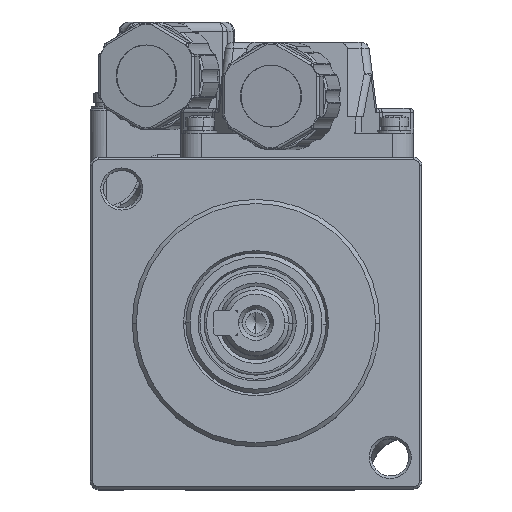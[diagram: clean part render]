
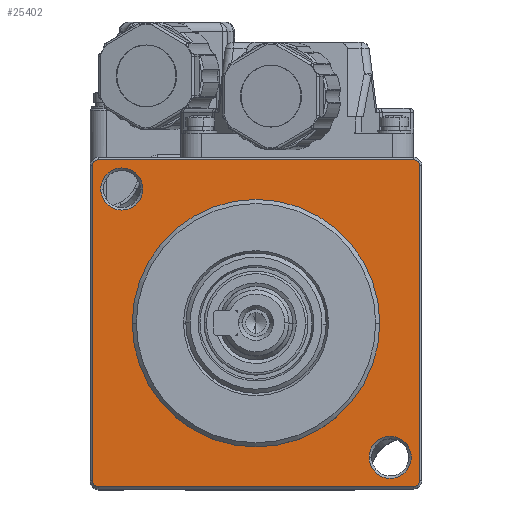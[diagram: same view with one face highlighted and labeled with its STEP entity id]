
A CAD part, top view. The second image highlights one B-rep face of the part: STEP entity #25402.
In plain terms, the highlighted planar face has unit normal (0, 0, 1).
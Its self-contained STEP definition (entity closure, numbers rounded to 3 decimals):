
#499 = CARTESIAN_POINT ( 'NONE',  ( 0., 0., 1.8 ) ) ;
#1031 = DIRECTION ( 'NONE',  ( 1., 0., 0. ) ) ;
#1082 = DIRECTION ( 'NONE',  ( 1., 0., 0. ) ) ;
#1184 = ORIENTED_EDGE ( 'NONE', *, *, #37519, .F. ) ;
#2623 = CIRCLE ( 'NONE', #49403, 0.7 ) ;
#3885 = AXIS2_PLACEMENT_3D ( 'NONE', #4384, #45711, #49116 ) ;
#4365 = VERTEX_POINT ( 'NONE', #35792 ) ;
#4384 = CARTESIAN_POINT ( 'NONE',  ( 16.263, -16.263, 1.8 ) ) ;
#4639 = CARTESIAN_POINT ( 'NONE',  ( -18.813, 16.263, 1.8 ) ) ;
#4656 = CARTESIAN_POINT ( 'NONE',  ( 0., 15., 1.8 ) ) ;
#4702 = CIRCLE ( 'NONE', #27278, 2.55 ) ;
#5017 = VERTEX_POINT ( 'NONE', #18409 ) ;
#5183 = CARTESIAN_POINT ( 'NONE',  ( 19.8, 19.1, 1.8 ) ) ;
#5382 = VERTEX_POINT ( 'NONE', #41039 ) ;
#6269 = VECTOR ( 'NONE', #10310, 1000. ) ;
#7117 = ORIENTED_EDGE ( 'NONE', *, *, #7809, .F. ) ;
#7581 = ORIENTED_EDGE ( 'NONE', *, *, #36174, .F. ) ;
#7809 = EDGE_CURVE ( 'NONE', #4365, #48178, #13114, .T. ) ;
#8301 = CARTESIAN_POINT ( 'NONE',  ( -16.263, 16.263, 1.8 ) ) ;
#8580 = FACE_BOUND ( 'NONE', #34111, .T. ) ;
#8612 = CARTESIAN_POINT ( 'NONE',  ( -16.263, 16.263, 1.8 ) ) ;
#8659 = EDGE_CURVE ( 'NONE', #49053, #22919, #4702, .T. ) ;
#8672 = CARTESIAN_POINT ( 'NONE',  ( 0., -19.8, 1.8 ) ) ;
#8674 = EDGE_CURVE ( 'NONE', #17698, #20687, #42342, .T. ) ;
#9002 = CARTESIAN_POINT ( 'NONE',  ( -19.1, -19.8, 1.8 ) ) ;
#9191 = DIRECTION ( 'NONE',  ( 0., 0., 1. ) ) ;
#10310 = DIRECTION ( 'NONE',  ( 0., 1., 0. ) ) ;
#11290 = VECTOR ( 'NONE', #12339, 1000. ) ;
#11974 = EDGE_CURVE ( 'NONE', #22919, #49053, #32444, .T. ) ;
#12134 = EDGE_LOOP ( 'NONE', ( #12232, #30790 ) ) ;
#12232 = ORIENTED_EDGE ( 'NONE', *, *, #11974, .F. ) ;
#12339 = DIRECTION ( 'NONE',  ( -1., 0., 0. ) ) ;
#12409 = CIRCLE ( 'NONE', #19926, 0.7 ) ;
#12813 = EDGE_CURVE ( 'NONE', #20687, #17698, #14121, .T. ) ;
#12861 = ORIENTED_EDGE ( 'NONE', *, *, #48913, .F. ) ;
#13039 = ORIENTED_EDGE ( 'NONE', *, *, #27749, .F. ) ;
#13114 = LINE ( 'NONE', #8672, #11290 ) ;
#13588 = CARTESIAN_POINT ( 'NONE',  ( 0., 19.8, 1.8 ) ) ;
#13842 = AXIS2_PLACEMENT_3D ( 'NONE', #21232, #9191, #1082 ) ;
#14121 = CIRCLE ( 'NONE', #20807, 2.55 ) ;
#14319 = CARTESIAN_POINT ( 'NONE',  ( -19.1, 19.1, 1.8 ) ) ;
#15043 = CARTESIAN_POINT ( 'NONE',  ( -19.8, 20., 1.8 ) ) ;
#15304 = CARTESIAN_POINT ( 'NONE',  ( -19.1, -19.1, 1.8 ) ) ;
#16683 = DIRECTION ( 'NONE',  ( 1., 0., 0. ) ) ;
#17497 = ORIENTED_EDGE ( 'NONE', *, *, #19946, .F. ) ;
#17698 = VERTEX_POINT ( 'NONE', #25502 ) ;
#17966 = ORIENTED_EDGE ( 'NONE', *, *, #8674, .F. ) ;
#18409 = CARTESIAN_POINT ( 'NONE',  ( -19.8, 19.1, 1.8 ) ) ;
#19407 = CARTESIAN_POINT ( 'NONE',  ( 19.1, 19.8, 1.8 ) ) ;
#19524 = CARTESIAN_POINT ( 'NONE',  ( 19.1, -19.1, 1.8 ) ) ;
#19777 = DIRECTION ( 'NONE',  ( 1., 0., 0. ) ) ;
#19835 = VERTEX_POINT ( 'NONE', #5183 ) ;
#19926 = AXIS2_PLACEMENT_3D ( 'NONE', #15304, #44333, #40933 ) ;
#19946 = EDGE_CURVE ( 'NONE', #5017, #27036, #2623, .T. ) ;
#20111 = FACE_OUTER_BOUND ( 'NONE', #40117, .T. ) ;
#20390 = DIRECTION ( 'NONE',  ( 0., 0., 1. ) ) ;
#20637 = DIRECTION ( 'NONE',  ( 0., 0., 1. ) ) ;
#20687 = VERTEX_POINT ( 'NONE', #42820 ) ;
#20807 = AXIS2_PLACEMENT_3D ( 'NONE', #35155, #42497, #42763 ) ;
#20877 = FACE_BOUND ( 'NONE', #47701, .T. ) ;
#21232 = CARTESIAN_POINT ( 'NONE',  ( 0., 0., 1.8 ) ) ;
#21919 = DIRECTION ( 'NONE',  ( 1., 0., 0. ) ) ;
#21927 = CARTESIAN_POINT ( 'NONE',  ( 19.1, 19.1, 1.8 ) ) ;
#22077 = CIRCLE ( 'NONE', #35455, 15. ) ;
#22919 = VERTEX_POINT ( 'NONE', #43407 ) ;
#24254 = EDGE_CURVE ( 'NONE', #5382, #4365, #32731, .T. ) ;
#24285 = DIRECTION ( 'NONE',  ( 0., 0., 1. ) ) ;
#25232 = ORIENTED_EDGE ( 'NONE', *, *, #12813, .F. ) ;
#25402 = ADVANCED_FACE ( 'NONE', ( #20111, #8580, #40271, #20877 ), #36852, .T. ) ;
#25502 = CARTESIAN_POINT ( 'NONE',  ( 18.813, -16.263, 1.8 ) ) ;
#25703 = VERTEX_POINT ( 'NONE', #42334 ) ;
#27036 = VERTEX_POINT ( 'NONE', #36521 ) ;
#27278 = AXIS2_PLACEMENT_3D ( 'NONE', #8301, #24285, #16683 ) ;
#27749 = EDGE_CURVE ( 'NONE', #31719, #19835, #48022, .T. ) ;
#27814 = CARTESIAN_POINT ( 'NONE',  ( -19.8, -19.1, 1.8 ) ) ;
#28177 = EDGE_CURVE ( 'NONE', #35738, #5017, #29965, .T. ) ;
#28879 = VECTOR ( 'NONE', #47668, 1000. ) ;
#29050 = LINE ( 'NONE', #13588, #40987 ) ;
#29965 = LINE ( 'NONE', #15043, #6269 ) ;
#30689 = EDGE_CURVE ( 'NONE', #19835, #5382, #36143, .T. ) ;
#30790 = ORIENTED_EDGE ( 'NONE', *, *, #8659, .F. ) ;
#31214 = ORIENTED_EDGE ( 'NONE', *, *, #30689, .F. ) ;
#31719 = VERTEX_POINT ( 'NONE', #19407 ) ;
#32444 = CIRCLE ( 'NONE', #37438, 2.55 ) ;
#32731 = CIRCLE ( 'NONE', #46949, 0.7 ) ;
#34111 = EDGE_LOOP ( 'NONE', ( #17966, #25232 ) ) ;
#34446 = EDGE_CURVE ( 'NONE', #48178, #35738, #12409, .T. ) ;
#34475 = DIRECTION ( 'NONE',  ( 0., 0., -1. ) ) ;
#35155 = CARTESIAN_POINT ( 'NONE',  ( 16.263, -16.263, 1.8 ) ) ;
#35455 = AXIS2_PLACEMENT_3D ( 'NONE', #499, #20637, #44212 ) ;
#35505 = AXIS2_PLACEMENT_3D ( 'NONE', #21927, #37885, #49143 ) ;
#35738 = VERTEX_POINT ( 'NONE', #27814 ) ;
#35792 = CARTESIAN_POINT ( 'NONE',  ( 19.1, -19.8, 1.8 ) ) ;
#36143 = LINE ( 'NONE', #48176, #28879 ) ;
#36174 = EDGE_CURVE ( 'NONE', #41294, #25703, #22077, .T. ) ;
#36520 = CARTESIAN_POINT ( 'NONE',  ( -15., 0., 1.8 ) ) ;
#36521 = CARTESIAN_POINT ( 'NONE',  ( -19.1, 19.8, 1.8 ) ) ;
#36588 = DIRECTION ( 'NONE',  ( 0., 0., 1. ) ) ;
#36852 = PLANE ( 'NONE',  #37829 ) ;
#37438 = AXIS2_PLACEMENT_3D ( 'NONE', #8612, #20390, #1031 ) ;
#37519 = EDGE_CURVE ( 'NONE', #25703, #41294, #44793, .T. ) ;
#37669 = DIRECTION ( 'NONE',  ( 1., 0., 0. ) ) ;
#37829 = AXIS2_PLACEMENT_3D ( 'NONE', #4656, #36588, #47865 ) ;
#37885 = DIRECTION ( 'NONE',  ( 0., 0., -1. ) ) ;
#40117 = EDGE_LOOP ( 'NONE', ( #13039, #12861, #17497, #48869, #47709, #7117, #43716, #31214 ) ) ;
#40271 = FACE_BOUND ( 'NONE', #12134, .T. ) ;
#40933 = DIRECTION ( 'NONE',  ( 1., 0., 0. ) ) ;
#40987 = VECTOR ( 'NONE', #37669, 1000. ) ;
#41039 = CARTESIAN_POINT ( 'NONE',  ( 19.8, -19.1, 1.8 ) ) ;
#41294 = VERTEX_POINT ( 'NONE', #36520 ) ;
#42334 = CARTESIAN_POINT ( 'NONE',  ( 15., 0., 1.8 ) ) ;
#42342 = CIRCLE ( 'NONE', #3885, 2.55 ) ;
#42497 = DIRECTION ( 'NONE',  ( 0., 0., 1. ) ) ;
#42763 = DIRECTION ( 'NONE',  ( 1., 0., 0. ) ) ;
#42820 = CARTESIAN_POINT ( 'NONE',  ( 13.713, -16.263, 1.8 ) ) ;
#43407 = CARTESIAN_POINT ( 'NONE',  ( -13.713, 16.263, 1.8 ) ) ;
#43716 = ORIENTED_EDGE ( 'NONE', *, *, #24254, .F. ) ;
#44212 = DIRECTION ( 'NONE',  ( 1., 0., 0. ) ) ;
#44333 = DIRECTION ( 'NONE',  ( 0., 0., -1. ) ) ;
#44793 = CIRCLE ( 'NONE', #13842, 15. ) ;
#45711 = DIRECTION ( 'NONE',  ( 0., 0., 1. ) ) ;
#46949 = AXIS2_PLACEMENT_3D ( 'NONE', #19524, #51455, #19777 ) ;
#47668 = DIRECTION ( 'NONE',  ( 0., -1., 0. ) ) ;
#47701 = EDGE_LOOP ( 'NONE', ( #1184, #7581 ) ) ;
#47709 = ORIENTED_EDGE ( 'NONE', *, *, #34446, .F. ) ;
#47865 = DIRECTION ( 'NONE',  ( 1., 0., 0. ) ) ;
#48022 = CIRCLE ( 'NONE', #35505, 0.7 ) ;
#48176 = CARTESIAN_POINT ( 'NONE',  ( 19.8, 20., 1.8 ) ) ;
#48178 = VERTEX_POINT ( 'NONE', #9002 ) ;
#48869 = ORIENTED_EDGE ( 'NONE', *, *, #28177, .F. ) ;
#48913 = EDGE_CURVE ( 'NONE', #27036, #31719, #29050, .T. ) ;
#49053 = VERTEX_POINT ( 'NONE', #4639 ) ;
#49116 = DIRECTION ( 'NONE',  ( 1., 0., 0. ) ) ;
#49143 = DIRECTION ( 'NONE',  ( 1., 0., 0. ) ) ;
#49403 = AXIS2_PLACEMENT_3D ( 'NONE', #14319, #34475, #21919 ) ;
#51455 = DIRECTION ( 'NONE',  ( 0., 0., -1. ) ) ;
